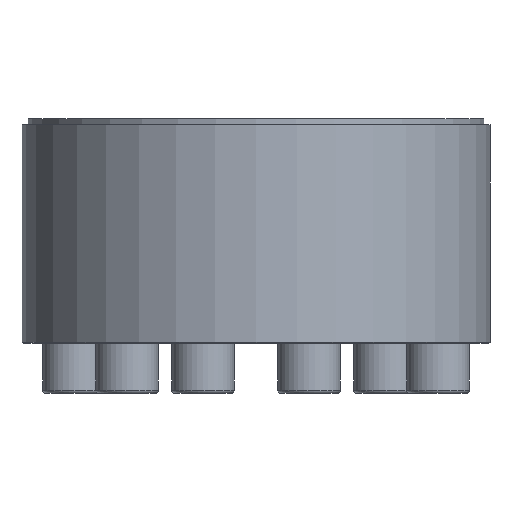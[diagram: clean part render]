
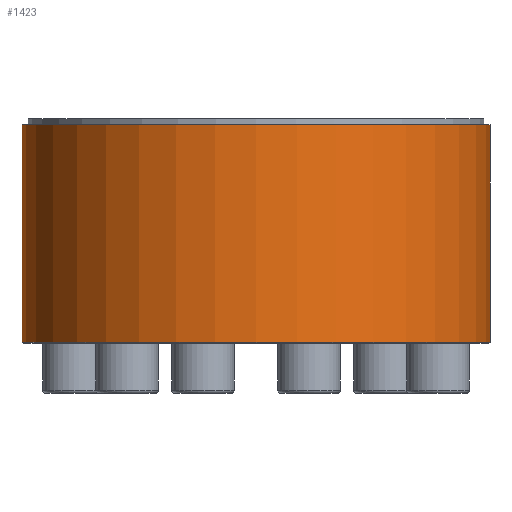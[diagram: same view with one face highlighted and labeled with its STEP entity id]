
A CAD part, front view. The second image highlights one B-rep face of the part: STEP entity #1423.
In plain terms, the highlighted cylindrical face has radius 37.5 mm (diameter 75 mm), a partial arc.
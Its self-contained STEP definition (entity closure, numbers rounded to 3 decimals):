
#51 = VECTOR ( 'NONE', #1472, 1000. ) ;
#130 = ORIENTED_EDGE ( 'NONE', *, *, #525, .T. ) ;
#228 = CARTESIAN_POINT ( 'NONE',  ( 37.5, 0., 0. ) ) ;
#316 = CARTESIAN_POINT ( 'NONE',  ( -37.5, 0., 0. ) ) ;
#499 = CARTESIAN_POINT ( 'NONE',  ( 37.5, 0., -17.8 ) ) ;
#525 = EDGE_CURVE ( 'NONE', #1297, #2308, #1286, .T. ) ;
#541 = LINE ( 'NONE', #228, #1155 ) ;
#563 = DIRECTION ( 'NONE',  ( -1., 0., 0. ) ) ;
#600 = CARTESIAN_POINT ( 'NONE',  ( 0., 0., -17.8 ) ) ;
#611 = ORIENTED_EDGE ( 'NONE', *, *, #1295, .T. ) ;
#688 = CYLINDRICAL_SURFACE ( 'NONE', #1990, 37.5 ) ;
#709 = ORIENTED_EDGE ( 'NONE', *, *, #1121, .T. ) ;
#954 = CIRCLE ( 'NONE', #1524, 37.5 ) ;
#973 = CARTESIAN_POINT ( 'NONE',  ( 0., 0., 17. ) ) ;
#1038 = VERTEX_POINT ( 'NONE', #1577 ) ;
#1111 = ORIENTED_EDGE ( 'NONE', *, *, #1859, .F. ) ;
#1121 = EDGE_CURVE ( 'NONE', #2278, #1038, #954, .T. ) ;
#1155 = VECTOR ( 'NONE', #1364, 1000. ) ;
#1264 = AXIS2_PLACEMENT_3D ( 'NONE', #600, #2114, #2441 ) ;
#1286 = CIRCLE ( 'NONE', #1264, 37.5 ) ;
#1293 = DIRECTION ( 'NONE',  ( 0., 0., -1. ) ) ;
#1295 = EDGE_CURVE ( 'NONE', #1038, #1297, #1643, .T. ) ;
#1297 = VERTEX_POINT ( 'NONE', #1445 ) ;
#1314 = CARTESIAN_POINT ( 'NONE',  ( 0., 0., 0. ) ) ;
#1364 = DIRECTION ( 'NONE',  ( 0., 0., -1. ) ) ;
#1423 = ADVANCED_FACE ( 'NONE', ( #1702 ), #688, .T. ) ;
#1445 = CARTESIAN_POINT ( 'NONE',  ( -37.5, 0., -17.8 ) ) ;
#1472 = DIRECTION ( 'NONE',  ( 0., 0., -1. ) ) ;
#1524 = AXIS2_PLACEMENT_3D ( 'NONE', #973, #2304, #1740 ) ;
#1577 = CARTESIAN_POINT ( 'NONE',  ( -37.5, 0., 17. ) ) ;
#1643 = LINE ( 'NONE', #316, #51 ) ;
#1702 = FACE_OUTER_BOUND ( 'NONE', #2444, .T. ) ;
#1740 = DIRECTION ( 'NONE',  ( 1., 0., 0. ) ) ;
#1859 = EDGE_CURVE ( 'NONE', #2278, #2308, #541, .T. ) ;
#1990 = AXIS2_PLACEMENT_3D ( 'NONE', #1314, #1293, #563 ) ;
#2059 = CARTESIAN_POINT ( 'NONE',  ( 37.5, 0., 17. ) ) ;
#2114 = DIRECTION ( 'NONE',  ( 0., 0., 1. ) ) ;
#2278 = VERTEX_POINT ( 'NONE', #2059 ) ;
#2304 = DIRECTION ( 'NONE',  ( 0., 0., -1. ) ) ;
#2308 = VERTEX_POINT ( 'NONE', #499 ) ;
#2441 = DIRECTION ( 'NONE',  ( -1., 0., 0. ) ) ;
#2444 = EDGE_LOOP ( 'NONE', ( #1111, #709, #611, #130 ) ) ;
